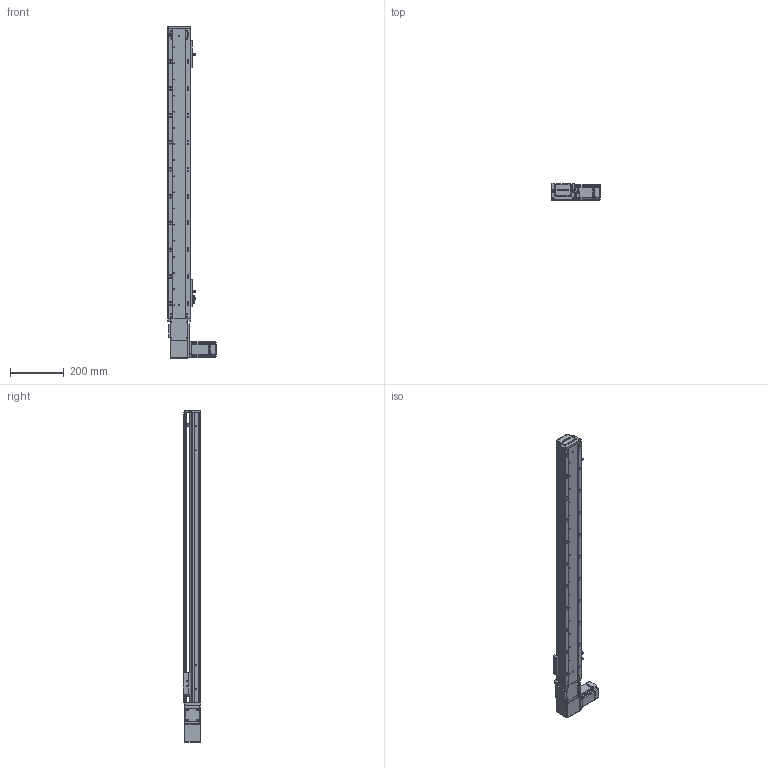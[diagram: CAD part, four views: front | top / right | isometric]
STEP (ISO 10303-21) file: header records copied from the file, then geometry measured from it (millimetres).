
FILE_DESCRIPTION (( 'STEP AP203' ), '1' );
FILE_NAME ('RY80-T-300-RK.SLDASM_900.step', '2021-03-01T02:07:11', ( '盈信电脑' ), ( '东莞市道滘镇水果街19号' ), 'SwSTEP 2.0', 'SolidWorks 2012', '' );
FILE_SCHEMA (( 'CONFIG_CONTROL_DESIGN' ));
Length unit declared in the file: millimetre
Products named in the file (20): RY80-T-300-RK.SLDASM_900; RY100-T粣創揤踡裔; 滅袉蝶18-10; RY80-T翋肮祭謫裔啣; RY80-T肮祭謫俋欶; RY80-T-M4蹟翐; RY80-T肮祭湍揤輸1; RY80-T肮祭湍揤輸2; RY80-T粣創揤踡輸; RY80-T萇儂假蚾啣; 侂狟200W萇儂; RY80-T-翋肮祭謫釱; 1; RY80-T綴裔啣; RY80俋离覜茼え; 672嫖萇羲壽假蚾釱; 覜茼ん672; RY80-T-300-RK倰第菁釱_900; RY80-T肮祭謫臏賑輸; RY80-T-300-RK倰第奻裔啣_900
Assembly tree (25 placements, depth 3):
  RY80-T-300-RK.SLDASM_900
    RY80-T-300-RK倰第菁釱_900
    RY80-T肮祭謫臏賑輸
    RY80-T-300-RK倰第奻裔啣_900
    RY80-T綴裔啣
    672嫖萇羲壽假蚾釱  x2
    覜茼ん672  x3
    RY80俋离覜茼え
    侂狟200W萇儂
      1
    RY80-T-翋肮祭謫釱
    RY80-T萇儂假蚾啣
    RY80-T肮祭湍揤輸1
    RY80-T肮祭湍揤輸2
    RY80-T粣創揤踡輸
    RY80-T-M4蹟翐  x2
    RY80-T翋肮祭謫裔啣  x2
    RY80-T肮祭謫俋欶
    滅袉蝶18-10  x2
    RY100-T粣創揤踡裔
Bounding box: 180 x 65 x 1235 mm (x, y, z)
Volume: 2057393.4 mm3; surface area: 859123.9 mm2
Topology: 24 solids, 24 shells, 2634 faces, 7297 edges, 4745 vertices
Faces by surface type: plane 1366, cylinder 1060, cone 152, bspline 56
Entity records: 84516 total; most frequent: CARTESIAN_POINT 21453, ORIENTED_EDGE 13038, DIRECTION 12088, EDGE_CURVE 6519, VERTEX_POINT 4286, AXIS2_PLACEMENT_3D 4109, VECTOR 3870, LINE 3870
